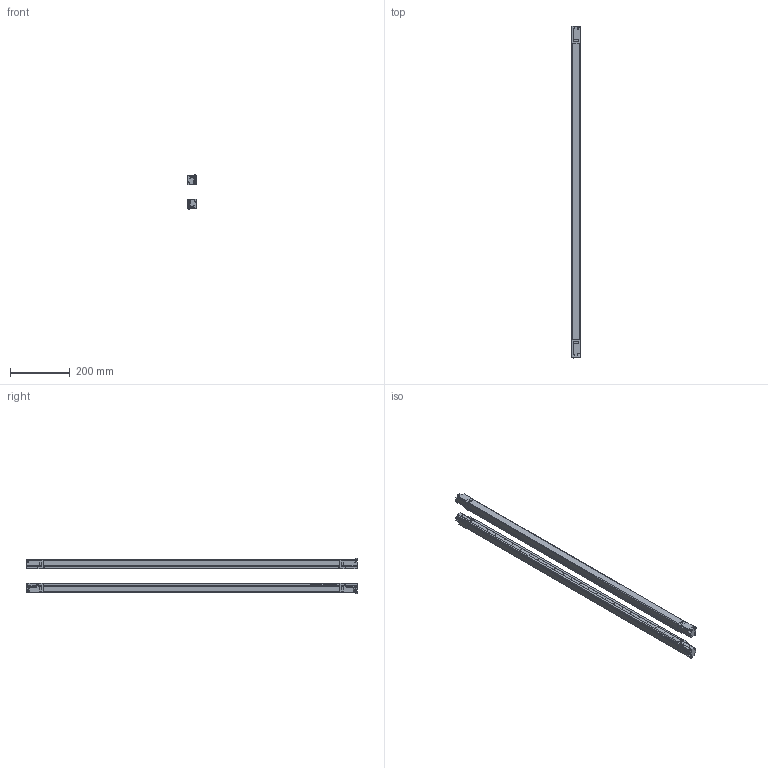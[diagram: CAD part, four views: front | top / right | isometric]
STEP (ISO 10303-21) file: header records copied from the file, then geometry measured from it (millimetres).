
FILE_DESCRIPTION (( 'STEP AP203' ), '1' );
FILE_NAME ('sf4b-a28(v2).STEP', '2009-02-13T02:32:34', ( ' ' ), ( ' ' ), 'SwSTEP 2.0', 'SolidWorks 2007', '' );
FILE_SCHEMA (( 'CONFIG_CONTROL_DESIGN' ));
Length unit declared in the file: millimetre
Products named in the file (3): sf4b-a28(v2); sf4b-a28(v2)d_蹬怮椔; sf4b-a28(v2)p_蹬怮椔
Assembly tree (2 placements, depth 2):
  sf4b-a28(v2)
    sf4b-a28(v2)p_蹬怮椔
    sf4b-a28(v2)d_蹬怮椔
Bounding box: 28 x 1112.63 x 118.81 mm (x, y, z)
Volume: 1820295.4 mm3; surface area: 284007.5 mm2
Topology: 18 solids, 18 shells, 708 faces, 1744 edges, 1156 vertices
Faces by surface type: plane 474, cylinder 214, sphere 16, bspline 4
Entity records: 21517 total; most frequent: CARTESIAN_POINT 3937, DIRECTION 3618, ORIENTED_EDGE 3488, EDGE_CURVE 1744, LINE 1272, VECTOR 1272, AXIS2_PLACEMENT_3D 1173, VERTEX_POINT 1156
